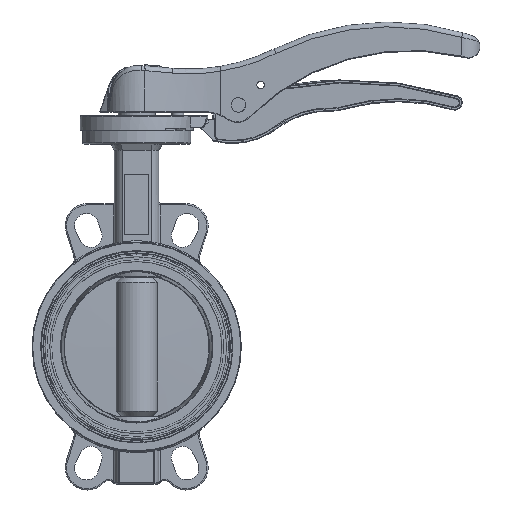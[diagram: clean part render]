
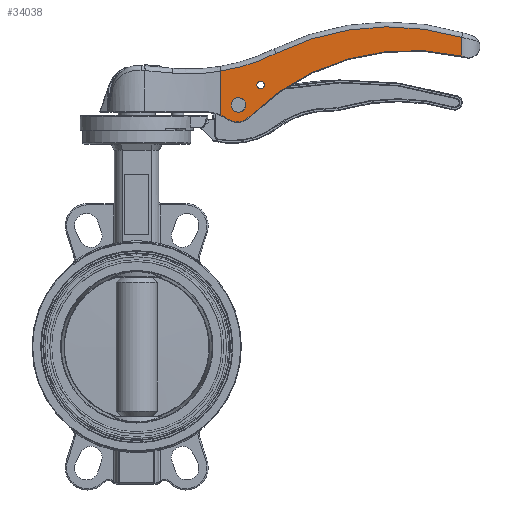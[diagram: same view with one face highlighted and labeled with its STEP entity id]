
A CAD part, top view. The second image highlights one B-rep face of the part: STEP entity #34038.
In plain terms, the highlighted planar face has unit normal (0, 0, 1).
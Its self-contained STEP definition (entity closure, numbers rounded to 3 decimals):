
#33507 = EDGE_CURVE ( 'NONE', #44746, #44746, #47076, .T. ) ;
#33510 = VERTEX_POINT ( 'NONE', #47067 ) ;
#33512 = ORIENTED_EDGE ( 'NONE', *, *, #34139, .T. ) ;
#33513 = EDGE_CURVE ( 'NONE', #34089, #33515, #47065, .T. ) ;
#33514 = VERTEX_POINT ( 'NONE', #47085 ) ;
#33515 = VERTEX_POINT ( 'NONE', #47044 ) ;
#34038 = ADVANCED_FACE ( 'NONE', ( #47270, #47224, #47221 ), #47220, .F. ) ;
#34061 = ORIENTED_EDGE ( 'NONE', *, *, #33513, .T. ) ;
#34062 = EDGE_CURVE ( 'NONE', #33515, #34092, #47315, .T. ) ;
#34063 = ORIENTED_EDGE ( 'NONE', *, *, #34157, .T. ) ;
#34067 = ORIENTED_EDGE ( 'NONE', *, *, #34062, .T. ) ;
#34069 = EDGE_CURVE ( 'NONE', #33510, #34092, #47325, .T. ) ;
#34071 = ORIENTED_EDGE ( 'NONE', *, *, #33507, .T. ) ;
#34089 = VERTEX_POINT ( 'NONE', #47330 ) ;
#34090 = VERTEX_POINT ( 'NONE', #47382 ) ;
#34091 = EDGE_LOOP ( 'NONE', ( #34110, #33512, #34061, #34067, #34152, #34156, #34063 ) ) ;
#34092 = VERTEX_POINT ( 'NONE', #47381 ) ;
#34110 = ORIENTED_EDGE ( 'NONE', *, *, #34127, .T. ) ;
#34113 = EDGE_LOOP ( 'NONE', ( #34116 ) ) ;
#34116 = ORIENTED_EDGE ( 'NONE', *, *, #34159, .T. ) ;
#34117 = EDGE_LOOP ( 'NONE', ( #34071 ) ) ;
#34127 = EDGE_CURVE ( 'NONE', #34090, #34130, #47432, .T. ) ;
#34130 = VERTEX_POINT ( 'NONE', #47434 ) ;
#34139 = EDGE_CURVE ( 'NONE', #34130, #34089, #47421, .T. ) ;
#34152 = ORIENTED_EDGE ( 'NONE', *, *, #34069, .F. ) ;
#34153 = EDGE_CURVE ( 'NONE', #33510, #33514, #47447, .T. ) ;
#34156 = ORIENTED_EDGE ( 'NONE', *, *, #34153, .T. ) ;
#34157 = EDGE_CURVE ( 'NONE', #33514, #34090, #47446, .T. ) ;
#34159 = EDGE_CURVE ( 'NONE', #44728, #44728, #47437, .T. ) ;
#44725 = CARTESIAN_POINT ( 'NONE',  ( 99.85, 217.5, 15.25 ) ) ;
#44728 = VERTEX_POINT ( 'NONE', #44725 ) ;
#44743 = CARTESIAN_POINT ( 'NONE',  ( 78.5, 201., 15.25 ) ) ;
#44746 = VERTEX_POINT ( 'NONE', #44743 ) ;
#47044 = CARTESIAN_POINT ( 'NONE',  ( 93.365, 191.066, 15.25 ) ) ;
#47061 = DIRECTION ( 'NONE',  ( -1., 0., 0. ) ) ;
#47062 = DIRECTION ( 'NONE',  ( 0., 0., 1. ) ) ;
#47063 = CARTESIAN_POINT ( 'NONE',  ( 83.5, 201., 15.25 ) ) ;
#47064 = AXIS2_PLACEMENT_3D ( 'NONE', #47063, #47062, #47061 ) ;
#47065 = CIRCLE ( 'NONE', #47064, 14. ) ;
#47067 = CARTESIAN_POINT ( 'NONE',  ( 270., 257.106, 15.25 ) ) ;
#47073 = DIRECTION ( 'NONE',  ( -1., 0., 0. ) ) ;
#47074 = DIRECTION ( 'NONE',  ( 0., 0., -1. ) ) ;
#47075 = CARTESIAN_POINT ( 'NONE',  ( 84.5, 201., 15.25 ) ) ;
#47076 = CIRCLE ( 'NONE', #47084, 6. ) ;
#47084 = AXIS2_PLACEMENT_3D ( 'NONE', #47075, #47074, #47073 ) ;
#47085 = CARTESIAN_POINT ( 'NONE',  ( 115.885, 243.936, 15.25 ) ) ;
#47220 = PLANE ( 'NONE',  #47262 ) ;
#47221 = FACE_BOUND ( 'NONE', #34117, .T. ) ;
#47224 = FACE_BOUND ( 'NONE', #34113, .T. ) ;
#47259 = DIRECTION ( 'NONE',  ( -1., 0., 0. ) ) ;
#47260 = DIRECTION ( 'NONE',  ( 0., 0., -1. ) ) ;
#47261 = CARTESIAN_POINT ( 'NONE',  ( 69.839, 299.5, 15.25 ) ) ;
#47262 = AXIS2_PLACEMENT_3D ( 'NONE', #47261, #47260, #47259 ) ;
#47270 = FACE_OUTER_BOUND ( 'NONE', #34091, .T. ) ;
#47305 = DIRECTION ( 'NONE',  ( 0., -1., 0. ) ) ;
#47306 = VECTOR ( 'NONE', #47305, 1000. ) ;
#47309 = DIRECTION ( 'NONE',  ( -1., 0., 0. ) ) ;
#47310 = DIRECTION ( 'NONE',  ( 0., 0., -1. ) ) ;
#47311 = CARTESIAN_POINT ( 'NONE',  ( 227.602, 55.897, 15.25 ) ) ;
#47312 = AXIS2_PLACEMENT_3D ( 'NONE', #47311, #47310, #47309 ) ;
#47315 = CIRCLE ( 'NONE', #47312, 190.5 ) ;
#47318 = CARTESIAN_POINT ( 'NONE',  ( 270., 299.5, 15.25 ) ) ;
#47325 = LINE ( 'NONE', #47318, #47306 ) ;
#47330 = CARTESIAN_POINT ( 'NONE',  ( 75.863, 189.267, 15.25 ) ) ;
#47381 = CARTESIAN_POINT ( 'NONE',  ( 270., 241.619, 15.25 ) ) ;
#47382 = CARTESIAN_POINT ( 'NONE',  ( 69.839, 229.062, 15.25 ) ) ;
#47412 = DIRECTION ( 'NONE',  ( -1., 0., 0. ) ) ;
#47413 = DIRECTION ( 'NONE',  ( 0., 0., -1. ) ) ;
#47414 = CARTESIAN_POINT ( 'NONE',  ( 54.86, 157., 15.25 ) ) ;
#47415 = AXIS2_PLACEMENT_3D ( 'NONE', #47414, #47413, #47412 ) ;
#47421 = CIRCLE ( 'NONE', #47415, 38.5 ) ;
#47429 = DIRECTION ( 'NONE',  ( 0., -1., 0. ) ) ;
#47430 = VECTOR ( 'NONE', #47429, 1000. ) ;
#47431 = CARTESIAN_POINT ( 'NONE',  ( 69.839, 299.5, 15.25 ) ) ;
#47432 = LINE ( 'NONE', #47431, #47430 ) ;
#47434 = CARTESIAN_POINT ( 'NONE',  ( 69.839, 192.467, 15.25 ) ) ;
#47437 = CIRCLE ( 'NONE', #47486, 3.15 ) ;
#47440 = DIRECTION ( 'NONE',  ( -1., 0., 0. ) ) ;
#47441 = DIRECTION ( 'NONE',  ( 0., 0., 1. ) ) ;
#47442 = CARTESIAN_POINT ( 'NONE',  ( 209.657, 54.919, 15.25 ) ) ;
#47443 = AXIS2_PLACEMENT_3D ( 'NONE', #47442, #47441, #47440 ) ;
#47446 = CIRCLE ( 'NONE', #47451, 164. ) ;
#47447 = CIRCLE ( 'NONE', #47443, 211. ) ;
#47451 = AXIS2_PLACEMENT_3D ( 'NONE', #47491, #47490, #47489 ) ;
#47483 = DIRECTION ( 'NONE',  ( -1., 0., 0. ) ) ;
#47484 = DIRECTION ( 'NONE',  ( 0., 0., -1. ) ) ;
#47485 = CARTESIAN_POINT ( 'NONE',  ( 103., 217.5, 15.25 ) ) ;
#47486 = AXIS2_PLACEMENT_3D ( 'NONE', #47485, #47484, #47483 ) ;
#47489 = DIRECTION ( 'NONE',  ( -1., 0., 0. ) ) ;
#47490 = DIRECTION ( 'NONE',  ( 0., 0., -1. ) ) ;
#47491 = CARTESIAN_POINT ( 'NONE',  ( 43., 390.851, 15.25 ) ) ;
